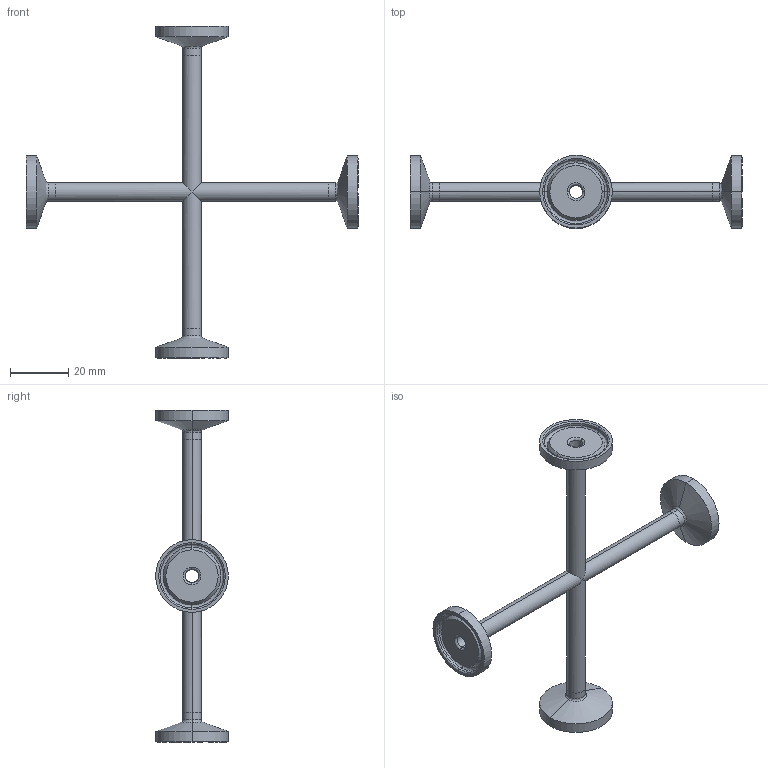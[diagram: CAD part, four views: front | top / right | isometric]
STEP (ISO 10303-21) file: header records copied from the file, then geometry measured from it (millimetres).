
FILE_DESCRIPTION (( 'STEP AP214' ), '1' );
FILE_NAME ('TEG96L.25-...STEP', '2016-05-22T05:33:46', ( 'eran' ), ( '' ), 'SwSTEP 2.0', 'SolidWorks 2016', '' );
FILE_SCHEMA (( 'AUTOMOTIVE_DESIGN' ));
Length unit declared in the file: millimetre
Products named in the file (1): TEG96L.25-..
Bounding box: 114.3 x 24.99 x 114.3 mm (x, y, z)
Volume: 10908.4 mm3; surface area: 12683.9 mm2
Topology: 5 solids, 5 shells, 112 faces, 244 edges, 144 vertices
Faces by surface type: cylinder 48, bspline 32, plane 16, cone 16
Entity records: 3518 total; most frequent: CARTESIAN_POINT 1077, DIRECTION 522, ORIENTED_EDGE 488, EDGE_CURVE 244, AXIS2_PLACEMENT_3D 229, CIRCLE 148, VERTEX_POINT 144, EDGE_LOOP 128
